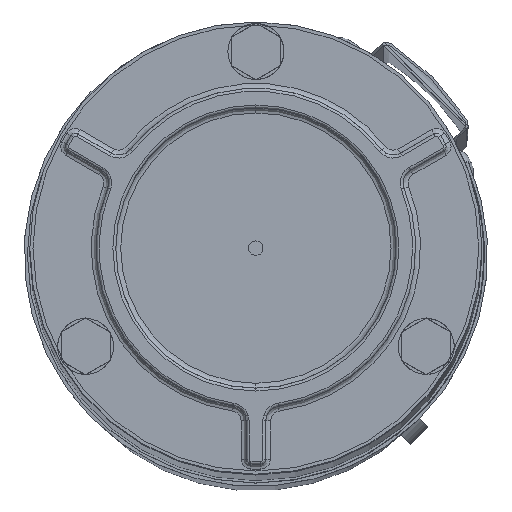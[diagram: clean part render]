
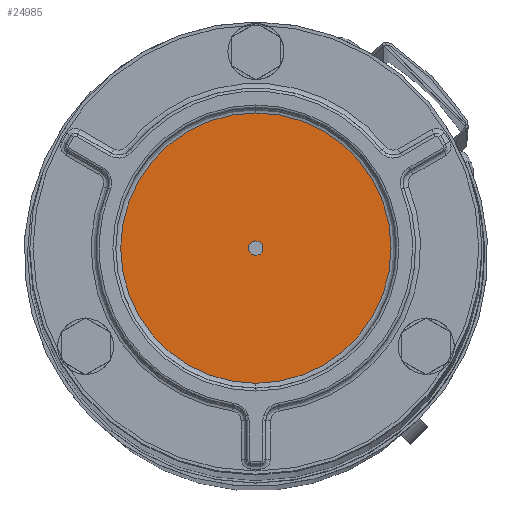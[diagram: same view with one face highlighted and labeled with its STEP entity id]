
A CAD part, top view. The second image highlights one B-rep face of the part: STEP entity #24985.
In plain terms, the highlighted planar face has unit normal (0, 0, 1) as drawn and (-1, 0, 0) by its records, which use the part's own axes.
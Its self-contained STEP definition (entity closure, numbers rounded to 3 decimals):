
#16026=CARTESIAN_POINT('',(-756.,0.,0.));
#16027=DIRECTION('',(1.,0.,0.));
#16028=DIRECTION('',(0.,1.,0.));
#16029=AXIS2_PLACEMENT_3D('',#16026,#16027,#16028);
#16031=CARTESIAN_POINT('',(-756.,0.,0.));
#16032=DIRECTION('',(1.,0.,0.));
#16033=DIRECTION('',(0.,-1.,0.));
#16034=AXIS2_PLACEMENT_3D('',#16031,#16032,#16033);
#16036=CARTESIAN_POINT('',(-756.,0.,0.));
#16037=DIRECTION('',(1.,0.,0.));
#16038=DIRECTION('',(0.,1.,0.));
#16039=AXIS2_PLACEMENT_3D('',#16036,#16037,#16038);
#16049=CARTESIAN_POINT('',(-756.,0.,0.));
#16050=DIRECTION('',(-1.,0.,0.));
#16051=DIRECTION('',(0.,1.,0.));
#16052=AXIS2_PLACEMENT_3D('',#16049,#16050,#16051);
#19548=CARTESIAN_POINT('',(-756.,1.5,0.));
#19550=VERTEX_POINT('',#19548);
#19552=CARTESIAN_POINT('',(-756.,-1.5,0.));
#19554=VERTEX_POINT('',#19552);
#19748=CARTESIAN_POINT('',(-756.,27.5,0.));
#19749=CARTESIAN_POINT('',(-756.,-27.5,0.));
#19750=VERTEX_POINT('',#19748);
#19751=VERTEX_POINT('',#19749);
#24969=CARTESIAN_POINT('',(-756.,0.,0.));
#24970=DIRECTION('',(1.,0.,0.));
#24971=DIRECTION('',(0.,-1.,0.));
#24972=AXIS2_PLACEMENT_3D('',#24969,#24970,#24971);
#24973=PLANE('',#24972);
#24975=ORIENTED_EDGE('',*,*,#24974,.T.);
#24976=ORIENTED_EDGE('',*,*,#24959,.T.);
#24977=EDGE_LOOP('',(#24975,#24976));
#24978=FACE_OUTER_BOUND('',#24977,.F.);
#24980=ORIENTED_EDGE('',*,*,#24979,.F.);
#24982=ORIENTED_EDGE('',*,*,#24981,.T.);
#24983=EDGE_LOOP('',(#24980,#24982));
#24984=FACE_BOUND('',#24983,.F.);
#24985=ADVANCED_FACE('',(#24978,#24984),#24973,.F.);
#16030=CIRCLE('',#16029,27.5);
#16035=CIRCLE('',#16034,27.5);
#16040=CIRCLE('',#16039,1.5);
#16053=CIRCLE('',#16052,1.5);
#24959=EDGE_CURVE('',#19751,#19750,#16035,.T.);
#24974=EDGE_CURVE('',#19750,#19751,#16030,.T.);
#24979=EDGE_CURVE('',#19550,#19554,#16040,.T.);
#24981=EDGE_CURVE('',#19550,#19554,#16053,.T.);
